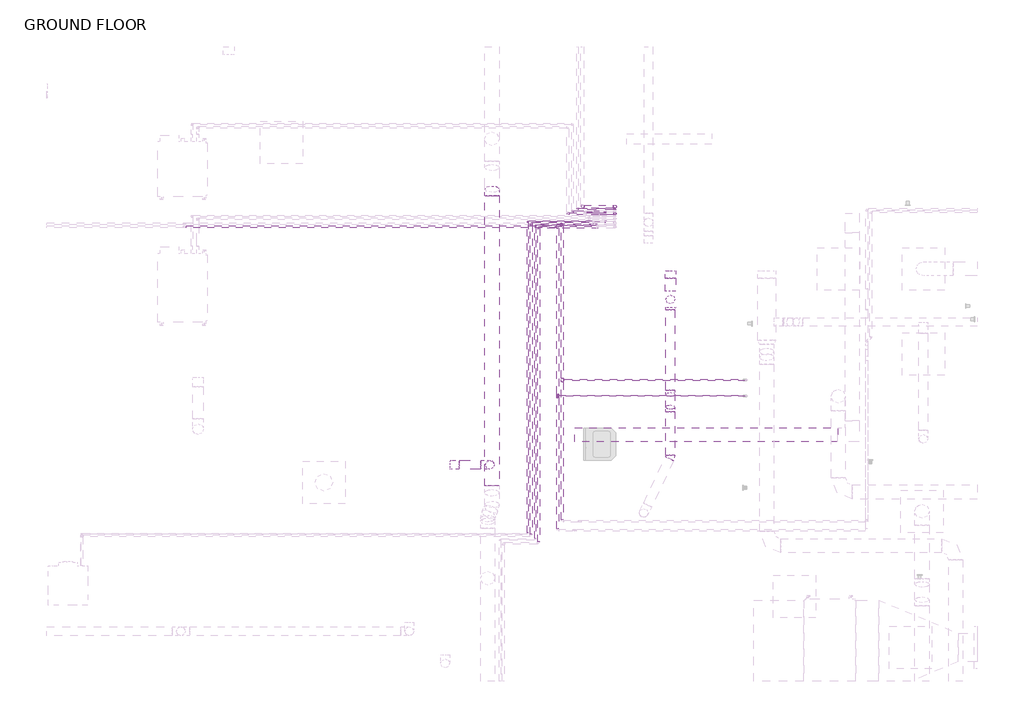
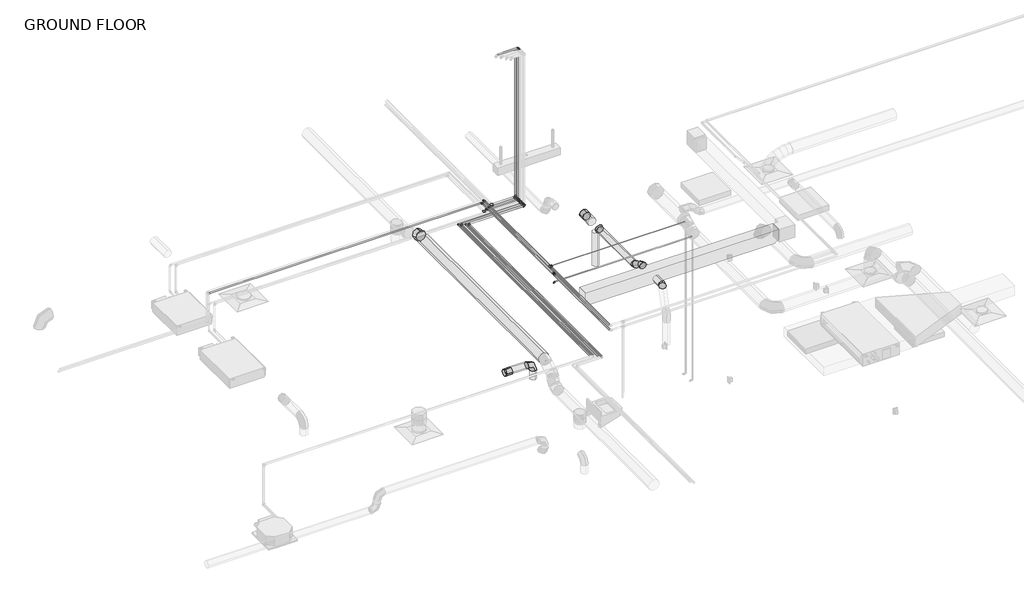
# One storey, part 12 of 20: 26 pipe fittings, 23 pipe segments, 9 duct segments, 8 duct fittings.
"""IFC4 building model written with IfcOpenShell, lengths in millimetres."""

from ifc_helpers import new_model, si_unit, point, frame, frame_2d, origin, place, context, project, spatial, polyline, circle_curve, trimmed, segment, composite_curve, outline, extrude, transform, mapped, element, save
from components import round_elbow_1_d_c80420c1, round_elbow_1_d_e295ca55, round_elbow_1_d_3986cbc1, round_elbow_1_d_d064e566, round_takeoff_standard_272bb003, round_takeoff_standard_0a2b6d05, round_transition_angle_45_degree_fe5c3047, elbow_generic_standard_c06ac706, elbow_generic_standard_738589b0, elbow_generic_standard_a088f956, elbow_generic_standard_371413ad, tee_generic_standard_d345b28c, transition_generic_standard_19d9bb8b

model = new_model("IFC4")

# Units and contexts
model_context = context("Model", 3, world=origin())
ifc_project = project(units=[si_unit("LENGTHUNIT", "METRE", prefix="MILLI")], contexts=[model_context])

# Site, building, storey
site = spatial("IfcSite", under=ifc_project)
building = spatial("IfcBuilding", under=site)
storey = spatial("IfcBuildingStorey", under=building, Name="GROUND FLOOR", Elevation=30480.0)

# Duct fittings
placement = place(None, origin())
round_elbow_1_d_shape = round_elbow_1_d_c80420c1(model_context)
element("IfcDuctFitting", 1, ObjectType="Round Elbow : 1 D", at=placement, inside=storey, context=model_context, shape_type="MappedRepresentation", body=[
    mapped(round_elbow_1_d_shape, transform((-11225.8454607, 4001.4945005, 33121.6), x_axis=(0.0, 0.0, 1.0), y_axis=(-1.0, 0.0, 0.0), z_axis=(0.0, -1.0, 0.0))),
])
round_elbow_1_d_2_shape = round_elbow_1_d_e295ca55(model_context)
element("IfcDuctFitting", 2, ObjectType="Round Elbow : 1 D", at=placement, inside=storey, context=model_context, shape_type="MappedRepresentation", body=[
    mapped(round_elbow_1_d_2_shape, transform((-11194.8892107, 7909.4416846, 33401.0), x_axis=(0.0, 1.0, 0.0), y_axis=(0.0, 0.0, -1.0), z_axis=(-1.0, 0.0, 0.0))),
])
round_elbow_1_d_3_shape = round_elbow_1_d_3986cbc1(model_context)
element("IfcDuctFitting", 3, ObjectType="Round Elbow : 1 D", at=placement, inside=storey, context=model_context, shape_type="MappedRepresentation", body=[
    mapped(round_elbow_1_d_3_shape, transform((-8636.6329607, 5039.7195005, 33629.6), x_axis=(0.0, -1.0, 0.0), y_axis=(0.0, 0.0, 1.0), z_axis=(-1.0, 0.0, 0.0))),
])
element("IfcDuctFitting", 4, ObjectType="Round Elbow : 1 D", at=placement, inside=storey, context=model_context, shape_type="MappedRepresentation", body=[
    mapped(round_elbow_1_d_3_shape, transform((-8636.6329607, 4797.7520027, 33769.3), x_axis=(0.0, -0.8660254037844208, 0.5000000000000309), y_axis=(0.0, -0.5000000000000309, -0.8660254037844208), z_axis=(1.0, 0.0, 0.0))),
])
round_elbow_1_d_4_shape = round_elbow_1_d_d064e566(model_context)
element("IfcDuctFitting", 5, ObjectType="Round Elbow : 1 D", at=placement, inside=storey, context=model_context, shape_type="MappedRepresentation", body=[
    mapped(round_elbow_1_d_4_shape, transform((-8636.6329607, 4111.9520027, 33769.3), x_axis=(0.4302942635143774, 0.9026886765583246, 0.0), y_axis=(-0.9026886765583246, 0.4302942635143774, 0.0), z_axis=(0.0, 0.0, 1.0))),
])
round_takeoff_standard_shape = round_takeoff_standard_272bb003(model_context)
element("IfcDuctFitting", 6, ObjectType="Round Takeoff : Standard", at=placement, inside=storey, context=model_context, shape_type="MappedRepresentation", body=[
    mapped(round_takeoff_standard_shape, transform((-11764.8513201, 4001.4945005, 33121.6), x_axis=(1.0, 0.0, 0.0), y_axis=(0.0, -1.0, 0.0), z_axis=(0.0, 0.0, -1.0))),
])
round_takeoff_standard_2_shape = round_takeoff_standard_0a2b6d05(model_context)
element("IfcDuctFitting", 7, ObjectType="Round Takeoff : Standard", at=placement, inside=storey, context=model_context, shape_type="MappedRepresentation", body=[
    mapped(round_takeoff_standard_2_shape, transform((-8636.6329607, 6781.4293332, 33629.6), x_axis=(0.0, -1.0, 0.0), y_axis=(-1.0, 0.0, 0.0), z_axis=(0.0, 0.0, -1.0))),
])
round_transition_angle_45_degree_shape = round_transition_angle_45_degree_fe5c3047(model_context)
element("IfcDuctFitting", 8, ObjectType="Round Transition - Angle : 45 Degree", at=placement, inside=storey, context=model_context, shape_type="MappedRepresentation", body=[
    mapped(round_transition_angle_45_degree_shape, transform((-8636.6329607, 6258.9195005, 33629.6), x_axis=(0.0, -1.0, 0.0), y_axis=(1.0, 0.0, 0.0), z_axis=(0.0, 0.0, 1.0))),
])

# Duct segments
element("IfcDuctSegment", 9, ObjectType="Mitered Elbows / Taps", at=placement, inside=storey, context=model_context, shape_type="SweptSolid", body=[
    extrude(outline(polyline([(-10008.1055151, 4328.5195005), (-10008.1055151, 4531.7195005), (-6233.0204015, 4531.7195005), (-6233.0204015, 4328.5195005), (-10008.1055151, 4328.5195005)])), frame((0.0, 0.0, 33680.4), z_axis=(0.0, 0.0, 1.0), x_axis=(1.0, 0.0, 0.0)), (0.0, 0.0, 1.0), 254.0),
])
element("IfcDuctSegment", 10, ObjectType="Taps / Short Radius", at=placement, inside=storey, context=model_context, shape_type="SweptSolid", body=[
    extrude(outline(composite_curve([segment(trimmed(circle_curve(frame_2d((33401.0, -11194.8892107)), 101.6), [point((33401.0, -11296.4892107))], [point((33299.4, -11194.8892107))], False, "CARTESIAN"), True, "CONTINUOUS"), segment(trimmed(circle_curve(frame_2d((33401.0, -11194.8892107)), 101.6), [point((33299.4, -11194.8892107))], [point((33401.0, -11093.2892107))], False, "CARTESIAN"), True, "CONTINUOUS"), segment(trimmed(circle_curve(frame_2d((33401.0, -11194.8892107)), 101.6), [point((33401.0, -11093.2892107))], [point((33502.6, -11194.8892107))], False, "CARTESIAN"), True, "CONTINUOUS"), segment(trimmed(circle_curve(frame_2d((33401.0, -11194.8892107)), 101.6), [point((33502.6, -11194.8892107))], [point((33401.0, -11296.4892107))], False, "CARTESIAN"), True, "CONTINUOUS")], self_intersect=False)), frame((0.0, 3698.5539502, 0.0), z_axis=(0.0, 1.0, 0.0), x_axis=(0.0, 0.0, 1.0)), (0.0, 0.0, 1.0), 4162.0088278),
])
element("IfcDuctSegment", 11, ObjectType="Taps / Short Radius", at=placement, inside=storey, context=model_context, shape_type="SweptSolid", body=[
    extrude(outline(composite_curve([segment(trimmed(circle_curve(frame_2d((-11225.8454607, 4001.4945005)), 63.5), [point((-11289.3454607, 4001.4945005))], [point((-11225.8454607, 4064.9945005))], False, "CARTESIAN"), True, "CONTINUOUS"), segment(trimmed(circle_curve(frame_2d((-11225.8454607, 4001.4945005)), 63.5), [point((-11225.8454607, 4064.9945005))], [point((-11162.3454607, 4001.4945005))], False, "CARTESIAN"), True, "CONTINUOUS"), segment(trimmed(circle_curve(frame_2d((-11225.8454607, 4001.4945005)), 63.5), [point((-11162.3454607, 4001.4945005))], [point((-11225.8454607, 3937.9945005))], False, "CARTESIAN"), True, "CONTINUOUS"), segment(trimmed(circle_curve(frame_2d((-11225.8454607, 4001.4945005)), 63.5), [point((-11225.8454607, 3937.9945005))], [point((-11289.3454607, 4001.4945005))], False, "CARTESIAN"), True, "CONTINUOUS")], self_intersect=False)), frame((0.0, 0.0, 32816.8), z_axis=(0.0, 0.0, 1.0), x_axis=(1.0, 0.0, 0.0)), (0.0, 0.0, 1.0), 177.8),
])
element("IfcDuctSegment", 12, ObjectType="Taps / Short Radius", at=placement, inside=storey, context=model_context, shape_type="SweptSolid", body=[
    extrude(outline(composite_curve([segment(trimmed(circle_curve(frame_2d((4001.4945005, 33121.6)), 63.5), [point((4064.9945005, 33121.6))], [point((4001.4945005, 33058.1))], False, "CARTESIAN"), True, "CONTINUOUS"), segment(trimmed(circle_curve(frame_2d((4001.4945005, 33121.6)), 63.5), [point((4001.4945005, 33058.1))], [point((3937.9945005, 33121.6))], False, "CARTESIAN"), True, "CONTINUOUS"), segment(trimmed(circle_curve(frame_2d((4001.4945005, 33121.6)), 63.5), [point((3937.9945005, 33121.6))], [point((4001.4945005, 33185.1))], False, "CARTESIAN"), True, "CONTINUOUS"), segment(trimmed(circle_curve(frame_2d((4001.4945005, 33121.6)), 63.5), [point((4001.4945005, 33185.1))], [point((4064.9945005, 33121.6))], False, "CARTESIAN"), True, "CONTINUOUS")], self_intersect=False)), frame((-11663.2513201, 0.0, 0.0), z_axis=(1.0, 0.0, 0.0), x_axis=(0.0, 1.0, 0.0)), (0.0, 0.0, 1.0), 310.4058594),
])
element("IfcDuctSegment", 13, ObjectType="Taps / Short Radius", at=placement, inside=storey, context=model_context, shape_type="SweptSolid", body=[
    extrude(outline(composite_curve([segment(trimmed(circle_curve(frame_2d((-8636.6329607, 6373.2195005)), 63.5), [point((-8636.6329607, 6309.7195005))], [point((-8700.1329607, 6373.2195005))], False, "CARTESIAN"), True, "CONTINUOUS"), segment(trimmed(circle_curve(frame_2d((-8636.6329607, 6373.2195005)), 63.5), [point((-8700.1329607, 6373.2195005))], [point((-8636.6329607, 6436.7195005))], False, "CARTESIAN"), True, "CONTINUOUS"), segment(trimmed(circle_curve(frame_2d((-8636.6329607, 6373.2195005)), 63.5), [point((-8636.6329607, 6436.7195005))], [point((-8573.1329607, 6373.2195005))], False, "CARTESIAN"), True, "CONTINUOUS"), segment(trimmed(circle_curve(frame_2d((-8636.6329607, 6373.2195005)), 63.5), [point((-8573.1329607, 6373.2195005))], [point((-8636.6329607, 6309.7195005))], False, "CARTESIAN"), True, "CONTINUOUS")], self_intersect=False)), frame((0.0, 0.0, 32816.8), z_axis=(0.0, 0.0, 1.0), x_axis=(1.0, 0.0, 0.0)), (0.0, 0.0, 1.0), 685.8),
])
element("IfcDuctSegment", 14, ObjectType="Taps / Short Radius", at=placement, inside=storey, context=model_context, shape_type="SweptSolid", body=[
    extrude(outline(composite_curve([segment(trimmed(circle_curve(frame_2d((33629.6, -8636.6329607)), 76.2), [point((33629.6, -8712.8329607))], [point((33553.4, -8636.6329607))], False, "CARTESIAN"), True, "CONTINUOUS"), segment(trimmed(circle_curve(frame_2d((33629.6, -8636.6329607)), 76.2), [point((33553.4, -8636.6329607))], [point((33629.6, -8560.4329607))], False, "CARTESIAN"), True, "CONTINUOUS"), segment(trimmed(circle_curve(frame_2d((33629.6, -8636.6329607)), 76.2), [point((33629.6, -8560.4329607))], [point((33705.8, -8636.6329607))], False, "CARTESIAN"), True, "CONTINUOUS"), segment(trimmed(circle_curve(frame_2d((33629.6, -8636.6329607)), 76.2), [point((33705.8, -8636.6329607))], [point((33629.6, -8712.8329607))], False, "CARTESIAN"), True, "CONTINUOUS")], self_intersect=False)), frame((0.0, 6487.5195005, 0.0), z_axis=(0.0, 1.0, 0.0), x_axis=(0.0, 0.0, 1.0)), (0.0, 0.0, 1.0), 192.3098327),
])
element("IfcDuctSegment", 15, ObjectType="Taps / Short Radius", at=placement, inside=storey, context=model_context, shape_type="SweptSolid", body=[
    extrude(outline(composite_curve([segment(trimmed(circle_curve(frame_2d((33629.6, -8636.6329607)), 63.5), [point((33629.6, -8700.1329607))], [point((33566.1, -8636.6329607))], False, "CARTESIAN"), True, "CONTINUOUS"), segment(trimmed(circle_curve(frame_2d((33629.6, -8636.6329607)), 63.5), [point((33566.1, -8636.6329607))], [point((33629.6, -8573.1329607))], False, "CARTESIAN"), True, "CONTINUOUS"), segment(trimmed(circle_curve(frame_2d((33629.6, -8636.6329607)), 63.5), [point((33629.6, -8573.1329607))], [point((33693.1, -8636.6329607))], False, "CARTESIAN"), True, "CONTINUOUS"), segment(trimmed(circle_curve(frame_2d((33629.6, -8636.6329607)), 63.5), [point((33693.1, -8636.6329607))], [point((33629.6, -8700.1329607))], False, "CARTESIAN"), True, "CONTINUOUS")], self_intersect=False)), frame((0.0, 5073.749048, 0.0), z_axis=(0.0, 1.0, 0.0), x_axis=(0.0, 0.0, 1.0)), (0.0, 0.0, 1.0), 1154.5099403),
])
element("IfcDuctSegment", 16, ObjectType="Taps / Short Radius", at=placement, inside=storey, context=model_context, shape_type="SweptSolid", body=[
    extrude(outline(composite_curve([segment(trimmed(circle_curve(frame_2d((0.0, 63.5)), 63.5), [point((-63.5, 63.5))], [point((0.0, 127.0))], False, "CARTESIAN"), True, "CONTINUOUS"), segment(trimmed(circle_curve(frame_2d((0.0, 63.5)), 63.5), [point((0.0, 127.0))], [point((63.5, 63.5))], False, "CARTESIAN"), True, "CONTINUOUS"), segment(trimmed(circle_curve(frame_2d((0.0, 63.5)), 63.5), [point((63.5, 63.5))], [point((0.0, 0.0))], False, "CARTESIAN"), True, "CONTINUOUS"), segment(trimmed(circle_curve(frame_2d((0.0, 63.5)), 63.5), [point((0.0, 0.0))], [point((-63.5, 63.5))], False, "CARTESIAN"), True, "CONTINUOUS")], self_intersect=False)), frame((-8636.6329607, 4978.499048, 33591.6221606), z_axis=(0.0, -0.8660254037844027, 0.5000000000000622), x_axis=(1.0, 0.0, 0.0)), (0.0, 0.0, 1.0), 211.3409051),
])
element("IfcDuctSegment", 17, ObjectType="Taps / Short Radius", at=placement, inside=storey, context=model_context, shape_type="SweptSolid", body=[
    extrude(outline(composite_curve([segment(trimmed(circle_curve(frame_2d((33769.3, -8636.6329607)), 63.5), [point((33769.3, -8700.1329607))], [point((33705.8, -8636.6329607))], False, "CARTESIAN"), True, "CONTINUOUS"), segment(trimmed(circle_curve(frame_2d((33769.3, -8636.6329607)), 63.5), [point((33705.8, -8636.6329607))], [point((33769.3, -8573.1329607))], False, "CARTESIAN"), True, "CONTINUOUS"), segment(trimmed(circle_curve(frame_2d((33769.3, -8636.6329607)), 63.5), [point((33769.3, -8573.1329607))], [point((33832.8, -8636.6329607))], False, "CARTESIAN"), True, "CONTINUOUS"), segment(trimmed(circle_curve(frame_2d((33769.3, -8636.6329607)), 63.5), [point((33832.8, -8636.6329607))], [point((33769.3, -8700.1329607))], False, "CARTESIAN"), True, "CONTINUOUS")], self_intersect=False)), frame((0.0, 4140.6731341, 0.0), z_axis=(0.0, 1.0, 0.0), x_axis=(0.0, 0.0, 1.0)), (0.0, 0.0, 1.0), 623.0493212),
])

# Pipe fittings
elbow_generic_standard_shape = elbow_generic_standard_c06ac706(model_context)
element("IfcPipeFitting", 18, ObjectType="Elbow - Generic : Standard", at=placement, inside=storey, context=model_context, shape_type="MappedRepresentation", body=[
    mapped(elbow_generic_standard_shape, transform((-10108.9967002, 7600.6601211, 33680.4), x_axis=(0.0, -1.0, 0.0), y_axis=(1.0, 0.0, 0.0), z_axis=(0.0, 0.0, 1.0))),
])
element("IfcPipeFitting", 19, ObjectType="Elbow - Generic : Standard", at=placement, inside=storey, context=model_context, shape_type="MappedRepresentation", body=[
    mapped(elbow_generic_standard_shape, transform((-10635.1515455, 7465.7928353, 33680.4), x_axis=(-1.0, 0.0, 0.0), y_axis=(0.0, -1.0, 0.0), z_axis=(0.0, 0.0, 1.0))),
])
element("IfcPipeFitting", 20, ObjectType="Elbow - Generic : Standard", at=placement, inside=storey, context=model_context, shape_type="MappedRepresentation", body=[
    mapped(elbow_generic_standard_shape, transform((-10524.9642107, 7409.7014345, 33680.4), x_axis=(-1.0, 0.0, 0.0), y_axis=(0.0, -1.0, 0.0), z_axis=(0.0, 0.0, 1.0))),
])
element("IfcPipeFitting", 21, ObjectType="Elbow - Generic : Standard", at=placement, inside=storey, context=model_context, shape_type="MappedRepresentation", body=[
    mapped(elbow_generic_standard_shape, transform((-9429.5892107, 7409.7014345, 33680.4), x_axis=(1.0, 0.0, 0.0), y_axis=(0.0, 0.0, 1.0), z_axis=(0.0, -1.0, 0.0))),
])
element("IfcPipeFitting", 22, ObjectType="Elbow - Generic : Standard", at=placement, inside=storey, context=model_context, shape_type="MappedRepresentation", body=[
    mapped(elbow_generic_standard_shape, transform((-9429.5892107, 7465.7928353, 33680.4), x_axis=(1.0, 0.0, 0.0), y_axis=(0.0, 0.0, 1.0), z_axis=(0.0, -1.0, 0.0))),
])
element("IfcPipeFitting", 23, ObjectType="Elbow - Generic : Standard", at=placement, inside=storey, context=model_context, shape_type="MappedRepresentation", body=[
    mapped(elbow_generic_standard_shape, transform((-9429.5892107, 7600.6601211, 33680.4), x_axis=(1.0, 0.0, 0.0), y_axis=(0.0, 0.0, 1.0), z_axis=(0.0, -1.0, 0.0))),
])
element("IfcPipeFitting", 24, ObjectType="Elbow - Generic : Standard", at=placement, inside=storey, context=model_context, shape_type="MappedRepresentation", body=[
    mapped(elbow_generic_standard_shape, transform((-9429.5892107, 7528.3379884, 33680.4), x_axis=(1.0, 0.0, 0.0), y_axis=(0.0, 0.0, 1.0), z_axis=(0.0, -1.0, 0.0))),
])
element("IfcPipeFitting", 25, ObjectType="Elbow - Generic : Standard", at=placement, inside=storey, context=model_context, shape_type="MappedRepresentation", body=[
    mapped(elbow_generic_standard_shape, transform((-9429.5892107, 7600.6601211, 36830.0), x_axis=(0.0, 0.0, 1.0), y_axis=(-1.0, 0.0, 0.0), z_axis=(0.0, -1.0, 0.0))),
])
element("IfcPipeFitting", 26, ObjectType="Elbow - Generic : Standard", at=placement, inside=storey, context=model_context, shape_type="MappedRepresentation", body=[
    mapped(elbow_generic_standard_shape, transform((-10189.2079607, 7460.2718518, 34023.3), x_axis=(0.0, 1.0, 0.0), y_axis=(-1.0, 0.0, 0.0), z_axis=(0.0, 0.0, 1.0))),
])
element("IfcPipeFitting", 27, ObjectType="Elbow - Generic : Standard", at=placement, inside=storey, context=model_context, shape_type="MappedRepresentation", body=[
    mapped(elbow_generic_standard_shape, transform((-10252.7079607, 7415.8218518, 34023.3), x_axis=(0.0, 1.0, 0.0), y_axis=(-1.0, 0.0, 0.0), z_axis=(0.0, 0.0, 1.0))),
])
elbow_generic_standard_2_shape = elbow_generic_standard_738589b0(model_context)
element("IfcPipeFitting", 28, ObjectType="Elbow - Generic : Standard", at=placement, inside=storey, context=model_context, shape_type="MappedRepresentation", body=[
    mapped(elbow_generic_standard_2_shape, transform((-9971.0694154, 7666.6322539, 33680.4), x_axis=(0.0, -1.0, 0.0), y_axis=(1.0, 0.0, 0.0), z_axis=(0.0, 0.0, 1.0))),
])
element("IfcPipeFitting", 29, ObjectType="Elbow - Generic : Standard", at=placement, inside=storey, context=model_context, shape_type="MappedRepresentation", body=[
    mapped(elbow_generic_standard_2_shape, transform((-10040.0330578, 7633.6461875, 33680.4), x_axis=(0.0, -1.0, 0.0), y_axis=(1.0, 0.0, 0.0), z_axis=(0.0, 0.0, 1.0))),
])
element("IfcPipeFitting", 30, ObjectType="Elbow - Generic : Standard", at=placement, inside=storey, context=model_context, shape_type="MappedRepresentation", body=[
    mapped(elbow_generic_standard_2_shape, transform((-9429.5892107, 7633.6461875, 33680.4), x_axis=(1.0, 0.0, 0.0), y_axis=(0.0, 0.0, 1.0), z_axis=(0.0, -1.0, 0.0))),
])
element("IfcPipeFitting", 31, ObjectType="Elbow - Generic : Standard", at=placement, inside=storey, context=model_context, shape_type="MappedRepresentation", body=[
    mapped(elbow_generic_standard_2_shape, transform((-9429.5892107, 7666.6322539, 33680.4), x_axis=(1.0, 0.0, 0.0), y_axis=(0.0, 0.0, 1.0), z_axis=(0.0, -1.0, 0.0))),
])
element("IfcPipeFitting", 32, ObjectType="Elbow - Generic : Standard", at=placement, inside=storey, context=model_context, shape_type="MappedRepresentation", body=[
    mapped(elbow_generic_standard_2_shape, transform((-9429.5892107, 7567.6740548, 33680.4), x_axis=(1.0, 0.0, 0.0), y_axis=(0.0, 0.0, 1.0), z_axis=(0.0, -1.0, 0.0))),
])
elbow_generic_standard_3_shape = elbow_generic_standard_a088f956(model_context)
element("IfcPipeFitting", 33, ObjectType="Elbow - Generic : Standard", at=placement, inside=storey, context=model_context, shape_type="MappedRepresentation", body=[
    mapped(elbow_generic_standard_3_shape, transform((-10682.7765455, 7495.3519221, 33680.4), x_axis=(-1.0, 0.0, 0.0), y_axis=(0.0, -1.0, 0.0), z_axis=(0.0, 0.0, 1.0))),
])
element("IfcPipeFitting", 34, ObjectType="Elbow - Generic : Standard", at=placement, inside=storey, context=model_context, shape_type="MappedRepresentation", body=[
    mapped(elbow_generic_standard_3_shape, transform((-10572.5892107, 7438.5314076, 33680.4), x_axis=(-1.0, 0.0, 0.0), y_axis=(0.0, -1.0, 0.0), z_axis=(0.0, 0.0, 1.0))),
])
element("IfcPipeFitting", 35, ObjectType="Elbow - Generic : Standard", at=placement, inside=storey, context=model_context, shape_type="MappedRepresentation", body=[
    mapped(elbow_generic_standard_3_shape, transform((-9429.5892107, 7438.5314076, 33680.4), x_axis=(1.0, 0.0, 0.0), y_axis=(0.0, 0.0, 1.0), z_axis=(0.0, -1.0, 0.0))),
])
element("IfcPipeFitting", 36, ObjectType="Elbow - Generic : Standard", at=placement, inside=storey, context=model_context, shape_type="MappedRepresentation", body=[
    mapped(elbow_generic_standard_3_shape, transform((-9429.5892107, 7495.3519221, 33680.4), x_axis=(1.0, 0.0, 0.0), y_axis=(0.0, 0.0, 1.0), z_axis=(0.0, -1.0, 0.0))),
])
element("IfcPipeFitting", 37, ObjectType="Elbow - Generic : Standard", at=placement, inside=storey, context=model_context, shape_type="MappedRepresentation", body=[
    mapped(elbow_generic_standard_3_shape, transform((-10252.7079607, 4988.9195005, 33855.358114), x_axis=(0.0, 0.0, 1.0), y_axis=(1.0, 0.0, 0.0), z_axis=(0.0, 1.0, 0.0))),
])
elbow_generic_standard_4_shape = elbow_generic_standard_371413ad(model_context)
element("IfcPipeFitting", 38, ObjectType="Elbow - Generic : Standard", at=placement, inside=storey, context=model_context, shape_type="MappedRepresentation", body=[
    mapped(elbow_generic_standard_4_shape, transform((-9902.105773, 7703.4915784, 33680.4), x_axis=(0.0, -1.0, 0.0), y_axis=(1.0, 0.0, 0.0), z_axis=(0.0, 0.0, 1.0))),
])
element("IfcPipeFitting", 39, ObjectType="Elbow - Generic : Standard", at=placement, inside=storey, context=model_context, shape_type="MappedRepresentation", body=[
    mapped(elbow_generic_standard_4_shape, transform((-9429.5892107, 7703.4915784, 33680.4), x_axis=(1.0, 0.0, 0.0), y_axis=(0.0, 0.0, 1.0), z_axis=(0.0, -1.0, 0.0))),
])
tee_generic_standard_shape = tee_generic_standard_d345b28c(model_context)
element("IfcPipeFitting", 40, ObjectType="Tee - Generic : Standard", at=placement, inside=storey, context=model_context, shape_type="MappedRepresentation", body=[
    mapped(tee_generic_standard_shape, transform((-10189.2079607, 5217.5195005, 34023.3), x_axis=(0.0, -1.0, 0.0), y_axis=(-1.0, 0.0, 0.0), z_axis=(0.0, 0.0, -1.0))),
])
element("IfcPipeFitting", 41, ObjectType="Tee - Generic : Standard", at=placement, inside=storey, context=model_context, shape_type="MappedRepresentation", body=[
    mapped(tee_generic_standard_shape, transform((-10252.7079607, 4988.9195005, 34023.3), x_axis=(0.0, -1.0, 0.0), y_axis=(0.0, 0.0, -1.0), z_axis=(1.0, 0.0, 0.0))),
])
transition_generic_standard_shape = transition_generic_standard_19d9bb8b(model_context)
element("IfcPipeFitting", 42, ObjectType="Transition - Generic : Standard", at=placement, inside=storey, context=model_context, shape_type="MappedRepresentation", body=[
    mapped(transition_generic_standard_shape, transform((-10162.2204607, 5217.5195005, 34023.3), x_axis=(1.0, 0.0, 0.0), y_axis=(0.0, 1.0, 0.0), z_axis=(0.0, 0.0, 1.0))),
])
element("IfcPipeFitting", 43, ObjectType="Transition - Generic : Standard", at=placement, inside=storey, context=model_context, shape_type="MappedRepresentation", body=[
    mapped(transition_generic_standard_shape, transform((-10252.7079607, 4988.9195005, 34050.2875), x_axis=(0.0, 0.0, 1.0), y_axis=(0.0, 1.0, 0.0), z_axis=(-1.0, 0.0, 0.0))),
])

# Pipe segments
element("IfcPipeSegment", 44, ObjectType="Copper Tubing", at=placement, inside=storey, context=model_context, shape_type="SweptSolid", body=[
    extrude(outline(composite_curve([segment(trimmed(circle_curve(frame_2d((7703.4915784, 33680.4)), 20.6375), [point((7682.8540784, 33680.4))], [point((7703.4915784, 33701.0375))], False, "CARTESIAN"), True, "CONTINUOUS"), segment(trimmed(circle_curve(frame_2d((7703.4915784, 33680.4)), 20.6375), [point((7703.4915784, 33701.0375))], [point((7724.1290784, 33680.4))], False, "CARTESIAN"), True, "CONTINUOUS"), segment(trimmed(circle_curve(frame_2d((7703.4915784, 33680.4)), 20.6375), [point((7724.1290784, 33680.4))], [point((7703.4915784, 33659.7625))], False, "CARTESIAN"), True, "CONTINUOUS"), segment(trimmed(circle_curve(frame_2d((7703.4915784, 33680.4)), 20.6375), [point((7703.4915784, 33659.7625))], [point((7682.8540784, 33680.4))], False, "CARTESIAN"), True, "CONTINUOUS")], self_intersect=False)), frame((-9875.118273, 0.0, 0.0), z_axis=(1.0, 0.0, 0.0), x_axis=(0.0, 1.0, 0.0)), (0.0, 0.0, 1.0), 418.5415623),
])
element("IfcPipeSegment", 45, ObjectType="Copper Tubing", at=placement, inside=storey, context=model_context, shape_type="SweptSolid", body=[
    extrude(outline(composite_curve([segment(trimmed(circle_curve(frame_2d((7666.6322539, 33680.4)), 11.1125), [point((7655.5197539, 33680.4))], [point((7666.6322539, 33691.5125))], False, "CARTESIAN"), True, "CONTINUOUS"), segment(trimmed(circle_curve(frame_2d((7666.6322539, 33680.4)), 11.1125), [point((7666.6322539, 33691.5125))], [point((7677.7447539, 33680.4))], False, "CARTESIAN"), True, "CONTINUOUS"), segment(trimmed(circle_curve(frame_2d((7666.6322539, 33680.4)), 11.1125), [point((7677.7447539, 33680.4))], [point((7666.6322539, 33669.2875))], False, "CARTESIAN"), True, "CONTINUOUS"), segment(trimmed(circle_curve(frame_2d((7666.6322539, 33680.4)), 11.1125), [point((7666.6322539, 33669.2875))], [point((7655.5197539, 33680.4))], False, "CARTESIAN"), True, "CONTINUOUS")], self_intersect=False)), frame((-9953.6069154, 0.0, 0.0), z_axis=(1.0, 0.0, 0.0), x_axis=(0.0, 1.0, 0.0)), (0.0, 0.0, 1.0), 506.5552047),
])
element("IfcPipeSegment", 46, ObjectType="Copper Tubing", at=placement, inside=storey, context=model_context, shape_type="SweptSolid", body=[
    extrude(outline(composite_curve([segment(trimmed(circle_curve(frame_2d((7600.6601211, 33680.4)), 14.2875), [point((7586.3726211, 33680.4))], [point((7600.6601211, 33694.6875))], False, "CARTESIAN"), True, "CONTINUOUS"), segment(trimmed(circle_curve(frame_2d((7600.6601211, 33680.4)), 14.2875), [point((7600.6601211, 33694.6875))], [point((7614.9476211, 33680.4))], False, "CARTESIAN"), True, "CONTINUOUS"), segment(trimmed(circle_curve(frame_2d((7600.6601211, 33680.4)), 14.2875), [point((7614.9476211, 33680.4))], [point((7600.6601211, 33666.1125))], False, "CARTESIAN"), True, "CONTINUOUS"), segment(trimmed(circle_curve(frame_2d((7600.6601211, 33680.4)), 14.2875), [point((7600.6601211, 33666.1125))], [point((7586.3726211, 33680.4))], False, "CARTESIAN"), True, "CONTINUOUS")], self_intersect=False)), frame((-10088.3592002, 0.0, 0.0), z_axis=(1.0, 0.0, 0.0), x_axis=(0.0, 1.0, 0.0)), (0.0, 0.0, 1.0), 638.1324895),
])
element("IfcPipeSegment", 47, ObjectType="Copper Tubing", at=placement, inside=storey, context=model_context, shape_type="SweptSolid", body=[
    extrude(outline(composite_curve([segment(trimmed(circle_curve(frame_2d((7633.6461875, 33680.4)), 11.1125), [point((7622.5336875, 33680.4))], [point((7633.6461875, 33691.5125))], False, "CARTESIAN"), True, "CONTINUOUS"), segment(trimmed(circle_curve(frame_2d((7633.6461875, 33680.4)), 11.1125), [point((7633.6461875, 33691.5125))], [point((7644.7586875, 33680.4))], False, "CARTESIAN"), True, "CONTINUOUS"), segment(trimmed(circle_curve(frame_2d((7633.6461875, 33680.4)), 11.1125), [point((7644.7586875, 33680.4))], [point((7633.6461875, 33669.2875))], False, "CARTESIAN"), True, "CONTINUOUS"), segment(trimmed(circle_curve(frame_2d((7633.6461875, 33680.4)), 11.1125), [point((7633.6461875, 33669.2875))], [point((7622.5336875, 33680.4))], False, "CARTESIAN"), True, "CONTINUOUS")], self_intersect=False)), frame((-10022.5705578, 0.0, 0.0), z_axis=(1.0, 0.0, 0.0), x_axis=(0.0, 1.0, 0.0)), (0.0, 0.0, 1.0), 575.5188471),
])
element("IfcPipeSegment", 48, ObjectType="Copper Tubing", at=placement, inside=storey, context=model_context, shape_type="SweptSolid", body=[
    extrude(outline(composite_curve([segment(trimmed(circle_curve(frame_2d((33680.4, -10682.7765455)), 7.9375), [point((33680.4, -10674.8390455))], [point((33688.3375, -10682.7765455))], False, "CARTESIAN"), True, "CONTINUOUS"), segment(trimmed(circle_curve(frame_2d((33680.4, -10682.7765455)), 7.9375), [point((33688.3375, -10682.7765455))], [point((33680.4, -10690.7140455))], False, "CARTESIAN"), True, "CONTINUOUS"), segment(trimmed(circle_curve(frame_2d((33680.4, -10682.7765455)), 7.9375), [point((33680.4, -10690.7140455))], [point((33672.4625, -10682.7765455))], False, "CARTESIAN"), True, "CONTINUOUS"), segment(trimmed(circle_curve(frame_2d((33680.4, -10682.7765455)), 7.9375), [point((33672.4625, -10682.7765455))], [point((33680.4, -10674.8390455))], False, "CARTESIAN"), True, "CONTINUOUS")], self_intersect=False)), frame((0.0, 3028.1140677, 0.0), z_axis=(0.0, 1.0, 0.0), x_axis=(0.0, 0.0, 1.0)), (0.0, 0.0, 1.0), 4452.9503543),
])
element("IfcPipeSegment", 49, ObjectType="Copper Tubing", at=placement, inside=storey, context=model_context, shape_type="SweptSolid", body=[
    extrude(outline(composite_curve([segment(trimmed(circle_curve(frame_2d((7495.3519221, 33680.4)), 7.9375), [point((7487.4144221, 33680.4))], [point((7495.3519221, 33688.3375))], False, "CARTESIAN"), True, "CONTINUOUS"), segment(trimmed(circle_curve(frame_2d((7495.3519221, 33680.4)), 7.9375), [point((7495.3519221, 33688.3375))], [point((7503.2894221, 33680.4))], False, "CARTESIAN"), True, "CONTINUOUS"), segment(trimmed(circle_curve(frame_2d((7495.3519221, 33680.4)), 7.9375), [point((7503.2894221, 33680.4))], [point((7495.3519221, 33672.4625))], False, "CARTESIAN"), True, "CONTINUOUS"), segment(trimmed(circle_curve(frame_2d((7495.3519221, 33680.4)), 7.9375), [point((7495.3519221, 33672.4625))], [point((7487.4144221, 33680.4))], False, "CARTESIAN"), True, "CONTINUOUS")], self_intersect=False)), frame((-10668.4890455, 0.0, 0.0), z_axis=(1.0, 0.0, 0.0), x_axis=(0.0, 1.0, 0.0)), (0.0, 0.0, 1.0), 1224.6123348),
])
element("IfcPipeSegment", 50, ObjectType="Copper Tubing", at=placement, inside=storey, context=model_context, shape_type="SweptSolid", body=[
    extrude(outline(composite_curve([segment(trimmed(circle_curve(frame_2d((33680.4, -10635.1515455)), 14.2875), [point((33680.4, -10620.8640455))], [point((33694.6875, -10635.1515455))], False, "CARTESIAN"), True, "CONTINUOUS"), segment(trimmed(circle_curve(frame_2d((33680.4, -10635.1515455)), 14.2875), [point((33694.6875, -10635.1515455))], [point((33680.4, -10649.4390455))], False, "CARTESIAN"), True, "CONTINUOUS"), segment(trimmed(circle_curve(frame_2d((33680.4, -10635.1515455)), 14.2875), [point((33680.4, -10649.4390455))], [point((33666.1125, -10635.1515455))], False, "CARTESIAN"), True, "CONTINUOUS"), segment(trimmed(circle_curve(frame_2d((33680.4, -10635.1515455)), 14.2875), [point((33666.1125, -10635.1515455))], [point((33680.4, -10620.8640455))], False, "CARTESIAN"), True, "CONTINUOUS")], self_intersect=False)), frame((0.0, 3004.9049809, 0.0), z_axis=(0.0, 1.0, 0.0), x_axis=(0.0, 0.0, 1.0)), (0.0, 0.0, 1.0), 4440.2503543),
])
element("IfcPipeSegment", 51, ObjectType="Copper Tubing", at=placement, inside=storey, context=model_context, shape_type="SweptSolid", body=[
    extrude(outline(composite_curve([segment(trimmed(circle_curve(frame_2d((7465.7928353, 33680.4)), 14.2875), [point((7451.5053353, 33680.4))], [point((7465.7928353, 33694.6875))], False, "CARTESIAN"), True, "CONTINUOUS"), segment(trimmed(circle_curve(frame_2d((7465.7928353, 33680.4)), 14.2875), [point((7465.7928353, 33694.6875))], [point((7480.0803353, 33680.4))], False, "CARTESIAN"), True, "CONTINUOUS"), segment(trimmed(circle_curve(frame_2d((7465.7928353, 33680.4)), 14.2875), [point((7480.0803353, 33680.4))], [point((7465.7928353, 33666.1125))], False, "CARTESIAN"), True, "CONTINUOUS"), segment(trimmed(circle_curve(frame_2d((7465.7928353, 33680.4)), 14.2875), [point((7465.7928353, 33666.1125))], [point((7451.5053353, 33680.4))], False, "CARTESIAN"), True, "CONTINUOUS")], self_intersect=False)), frame((-10614.5140455, 0.0, 0.0), z_axis=(1.0, 0.0, 0.0), x_axis=(0.0, 1.0, 0.0)), (0.0, 0.0, 1.0), 1164.2873348),
])
element("IfcPipeSegment", 52, ObjectType="Copper Tubing", at=placement, inside=storey, context=model_context, shape_type="SweptSolid", body=[
    extrude(outline(composite_curve([segment(trimmed(circle_curve(frame_2d((33680.4, -10572.5892107)), 7.9375), [point((33680.4, -10564.6517107))], [point((33688.3375, -10572.5892107))], False, "CARTESIAN"), True, "CONTINUOUS"), segment(trimmed(circle_curve(frame_2d((33680.4, -10572.5892107)), 7.9375), [point((33688.3375, -10572.5892107))], [point((33680.4, -10580.5267107))], False, "CARTESIAN"), True, "CONTINUOUS"), segment(trimmed(circle_curve(frame_2d((33680.4, -10572.5892107)), 7.9375), [point((33680.4, -10580.5267107))], [point((33672.4625, -10572.5892107))], False, "CARTESIAN"), True, "CONTINUOUS"), segment(trimmed(circle_curve(frame_2d((33680.4, -10572.5892107)), 7.9375), [point((33672.4625, -10572.5892107))], [point((33680.4, -10564.6517107))], False, "CARTESIAN"), True, "CONTINUOUS")], self_intersect=False)), frame((0.0, 2944.3718297, 0.0), z_axis=(0.0, 1.0, 0.0), x_axis=(0.0, 0.0, 1.0)), (0.0, 0.0, 1.0), 4479.8720779),
])
element("IfcPipeSegment", 53, ObjectType="Copper Tubing", at=placement, inside=storey, context=model_context, shape_type="SweptSolid", body=[
    extrude(outline(composite_curve([segment(trimmed(circle_curve(frame_2d((7438.5314076, 33680.4)), 7.9375), [point((7430.5939076, 33680.4))], [point((7438.5314076, 33688.3375))], False, "CARTESIAN"), True, "CONTINUOUS"), segment(trimmed(circle_curve(frame_2d((7438.5314076, 33680.4)), 7.9375), [point((7438.5314076, 33688.3375))], [point((7446.4689076, 33680.4))], False, "CARTESIAN"), True, "CONTINUOUS"), segment(trimmed(circle_curve(frame_2d((7438.5314076, 33680.4)), 7.9375), [point((7446.4689076, 33680.4))], [point((7438.5314076, 33672.4625))], False, "CARTESIAN"), True, "CONTINUOUS"), segment(trimmed(circle_curve(frame_2d((7438.5314076, 33680.4)), 7.9375), [point((7438.5314076, 33672.4625))], [point((7430.5939076, 33680.4))], False, "CARTESIAN"), True, "CONTINUOUS")], self_intersect=False)), frame((-10558.3017107, 0.0, 0.0), z_axis=(1.0, 0.0, 0.0), x_axis=(0.0, 1.0, 0.0)), (0.0, 0.0, 1.0), 1114.425),
])
element("IfcPipeSegment", 54, ObjectType="Copper Tubing", at=placement, inside=storey, context=model_context, shape_type="SweptSolid", body=[
    extrude(outline(composite_curve([segment(trimmed(circle_curve(frame_2d((33680.4, -10524.9642107)), 14.2875), [point((33680.4, -10510.6767107))], [point((33694.6875, -10524.9642107))], False, "CARTESIAN"), True, "CONTINUOUS"), segment(trimmed(circle_curve(frame_2d((33680.4, -10524.9642107)), 14.2875), [point((33694.6875, -10524.9642107))], [point((33680.4, -10539.2517107))], False, "CARTESIAN"), True, "CONTINUOUS"), segment(trimmed(circle_curve(frame_2d((33680.4, -10524.9642107)), 14.2875), [point((33680.4, -10539.2517107))], [point((33666.1125, -10524.9642107))], False, "CARTESIAN"), True, "CONTINUOUS"), segment(trimmed(circle_curve(frame_2d((33680.4, -10524.9642107)), 14.2875), [point((33666.1125, -10524.9642107))], [point((33680.4, -10510.6767107))], False, "CARTESIAN"), True, "CONTINUOUS")], self_intersect=False)), frame((0.0, 2896.4918566, 0.0), z_axis=(0.0, 1.0, 0.0), x_axis=(0.0, 0.0, 1.0)), (0.0, 0.0, 1.0), 4492.5720779),
])
element("IfcPipeSegment", 55, ObjectType="Copper Tubing", at=placement, inside=storey, context=model_context, shape_type="SweptSolid", body=[
    extrude(outline(composite_curve([segment(trimmed(circle_curve(frame_2d((7409.7014345, 33680.4)), 14.2875), [point((7395.4139345, 33680.4))], [point((7409.7014345, 33694.6875))], False, "CARTESIAN"), True, "CONTINUOUS"), segment(trimmed(circle_curve(frame_2d((7409.7014345, 33680.4)), 14.2875), [point((7409.7014345, 33694.6875))], [point((7423.9889345, 33680.4))], False, "CARTESIAN"), True, "CONTINUOUS"), segment(trimmed(circle_curve(frame_2d((7409.7014345, 33680.4)), 14.2875), [point((7423.9889345, 33680.4))], [point((7409.7014345, 33666.1125))], False, "CARTESIAN"), True, "CONTINUOUS"), segment(trimmed(circle_curve(frame_2d((7409.7014345, 33680.4)), 14.2875), [point((7409.7014345, 33666.1125))], [point((7395.4139345, 33680.4))], False, "CARTESIAN"), True, "CONTINUOUS")], self_intersect=False)), frame((-10504.3267107, 0.0, 0.0), z_axis=(1.0, 0.0, 0.0), x_axis=(0.0, 1.0, 0.0)), (0.0, 0.0, 1.0), 1054.1),
])
element("IfcPipeSegment", 56, ObjectType="Copper Tubing", at=placement, inside=storey, context=model_context, shape_type="SweptSolid", body=[
    extrude(outline(composite_curve([segment(trimmed(circle_curve(frame_2d((-9429.5892107, 7703.4915784)), 20.6375), [point((-9450.2267107, 7703.4915784))], [point((-9429.5892107, 7724.1290784))], False, "CARTESIAN"), True, "CONTINUOUS"), segment(trimmed(circle_curve(frame_2d((-9429.5892107, 7703.4915784)), 20.6375), [point((-9429.5892107, 7724.1290784))], [point((-9408.9517107, 7703.4915784))], False, "CARTESIAN"), True, "CONTINUOUS"), segment(trimmed(circle_curve(frame_2d((-9429.5892107, 7703.4915784)), 20.6375), [point((-9408.9517107, 7703.4915784))], [point((-9429.5892107, 7682.8540784))], False, "CARTESIAN"), True, "CONTINUOUS"), segment(trimmed(circle_curve(frame_2d((-9429.5892107, 7703.4915784)), 20.6375), [point((-9429.5892107, 7682.8540784))], [point((-9450.2267107, 7703.4915784))], False, "CARTESIAN"), True, "CONTINUOUS")], self_intersect=False)), frame((0.0, 0.0, 33707.3875), z_axis=(0.0, 0.0, 1.0), x_axis=(1.0, 0.0, 0.0)), (0.0, 0.0, 1.0), 3021.0125),
])
element("IfcPipeSegment", 57, ObjectType="Copper Tubing", at=placement, inside=storey, context=model_context, shape_type="SweptSolid", body=[
    extrude(outline(composite_curve([segment(trimmed(circle_curve(frame_2d((-9429.5892107, 7666.6322539)), 11.1125), [point((-9440.7017107, 7666.6322539))], [point((-9429.5892107, 7677.7447539))], False, "CARTESIAN"), True, "CONTINUOUS"), segment(trimmed(circle_curve(frame_2d((-9429.5892107, 7666.6322539)), 11.1125), [point((-9429.5892107, 7677.7447539))], [point((-9418.4767107, 7666.6322539))], False, "CARTESIAN"), True, "CONTINUOUS"), segment(trimmed(circle_curve(frame_2d((-9429.5892107, 7666.6322539)), 11.1125), [point((-9418.4767107, 7666.6322539))], [point((-9429.5892107, 7655.5197539))], False, "CARTESIAN"), True, "CONTINUOUS"), segment(trimmed(circle_curve(frame_2d((-9429.5892107, 7666.6322539)), 11.1125), [point((-9429.5892107, 7655.5197539))], [point((-9440.7017107, 7666.6322539))], False, "CARTESIAN"), True, "CONTINUOUS")], self_intersect=False)), frame((0.0, 0.0, 33697.8625), z_axis=(0.0, 0.0, 1.0), x_axis=(1.0, 0.0, 0.0)), (0.0, 0.0, 1.0), 3030.5375),
])
element("IfcPipeSegment", 58, ObjectType="Copper Tubing", at=placement, inside=storey, context=model_context, shape_type="SweptSolid", body=[
    extrude(outline(composite_curve([segment(trimmed(circle_curve(frame_2d((-9429.5892107, 7600.6601211)), 14.2875), [point((-9443.8767107, 7600.6601211))], [point((-9429.5892107, 7614.9476211))], False, "CARTESIAN"), True, "CONTINUOUS"), segment(trimmed(circle_curve(frame_2d((-9429.5892107, 7600.6601211)), 14.2875), [point((-9429.5892107, 7614.9476211))], [point((-9415.3017107, 7600.6601211))], False, "CARTESIAN"), True, "CONTINUOUS"), segment(trimmed(circle_curve(frame_2d((-9429.5892107, 7600.6601211)), 14.2875), [point((-9415.3017107, 7600.6601211))], [point((-9429.5892107, 7586.3726211))], False, "CARTESIAN"), True, "CONTINUOUS"), segment(trimmed(circle_curve(frame_2d((-9429.5892107, 7600.6601211)), 14.2875), [point((-9429.5892107, 7586.3726211))], [point((-9443.8767107, 7600.6601211))], False, "CARTESIAN"), True, "CONTINUOUS")], self_intersect=False)), frame((0.0, 0.0, 33701.0375), z_axis=(0.0, 0.0, 1.0), x_axis=(1.0, 0.0, 0.0)), (0.0, 0.0, 1.0), 3108.325),
])
element("IfcPipeSegment", 59, ObjectType="Copper Tubing", at=placement, inside=storey, context=model_context, shape_type="SweptSolid", body=[
    extrude(outline(composite_curve([segment(trimmed(circle_curve(frame_2d((7600.6601211, 36830.0)), 14.2875), [point((7614.9476211, 36830.0))], [point((7600.6601211, 36815.7125))], False, "CARTESIAN"), True, "CONTINUOUS"), segment(trimmed(circle_curve(frame_2d((7600.6601211, 36830.0)), 14.2875), [point((7600.6601211, 36815.7125))], [point((7586.3726211, 36830.0))], False, "CARTESIAN"), True, "CONTINUOUS"), segment(trimmed(circle_curve(frame_2d((7600.6601211, 36830.0)), 14.2875), [point((7586.3726211, 36830.0))], [point((7600.6601211, 36844.2875))], False, "CARTESIAN"), True, "CONTINUOUS"), segment(trimmed(circle_curve(frame_2d((7600.6601211, 36830.0)), 14.2875), [point((7600.6601211, 36844.2875))], [point((7614.9476211, 36830.0))], False, "CARTESIAN"), True, "CONTINUOUS")], self_intersect=False)), frame((-9845.6978043, 0.0, 0.0), z_axis=(1.0, 0.0, 0.0), x_axis=(0.0, 1.0, 0.0)), (0.0, 0.0, 1.0), 395.4710936),
])
element("IfcPipeSegment", 60, ObjectType="Copper Tubing", at=placement, inside=storey, context=model_context, shape_type="SweptSolid", body=[
    extrude(outline(composite_curve([segment(trimmed(circle_curve(frame_2d((34023.3, -10189.2079607)), 14.2875), [point((34023.3, -10174.9204607))], [point((34037.5875, -10189.2079607))], False, "CARTESIAN"), True, "CONTINUOUS"), segment(trimmed(circle_curve(frame_2d((34023.3, -10189.2079607)), 14.2875), [point((34037.5875, -10189.2079607))], [point((34023.3, -10203.4954607))], False, "CARTESIAN"), True, "CONTINUOUS"), segment(trimmed(circle_curve(frame_2d((34023.3, -10189.2079607)), 14.2875), [point((34023.3, -10203.4954607))], [point((34009.0125, -10189.2079607))], False, "CARTESIAN"), True, "CONTINUOUS"), segment(trimmed(circle_curve(frame_2d((34023.3, -10189.2079607)), 14.2875), [point((34009.0125, -10189.2079607))], [point((34023.3, -10174.9204607))], False, "CARTESIAN"), True, "CONTINUOUS")], self_intersect=False)), frame((0.0, 5244.5070005, 0.0), z_axis=(0.0, 1.0, 0.0), x_axis=(0.0, 0.0, 1.0)), (0.0, 0.0, 1.0), 2195.1273513),
])
element("IfcPipeSegment", 61, ObjectType="Copper Tubing", at=placement, inside=storey, context=model_context, shape_type="SweptSolid", body=[
    extrude(outline(composite_curve([segment(trimmed(circle_curve(frame_2d((34023.3, -10252.7079607)), 14.2875), [point((34023.3, -10238.4204607))], [point((34037.5875, -10252.7079607))], False, "CARTESIAN"), True, "CONTINUOUS"), segment(trimmed(circle_curve(frame_2d((34023.3, -10252.7079607)), 14.2875), [point((34037.5875, -10252.7079607))], [point((34023.3, -10266.9954607))], False, "CARTESIAN"), True, "CONTINUOUS"), segment(trimmed(circle_curve(frame_2d((34023.3, -10252.7079607)), 14.2875), [point((34023.3, -10266.9954607))], [point((34009.0125, -10252.7079607))], False, "CARTESIAN"), True, "CONTINUOUS"), segment(trimmed(circle_curve(frame_2d((34023.3, -10252.7079607)), 14.2875), [point((34009.0125, -10252.7079607))], [point((34023.3, -10238.4204607))], False, "CARTESIAN"), True, "CONTINUOUS")], self_intersect=False)), frame((0.0, 5015.9070005, 0.0), z_axis=(0.0, 1.0, 0.0), x_axis=(0.0, 0.0, 1.0)), (0.0, 0.0, 1.0), 2379.2773513),
])
element("IfcPipeSegment", 62, ObjectType="Copper Tubing", at=placement, inside=storey, context=model_context, shape_type="SweptSolid", body=[
    extrude(outline(composite_curve([segment(trimmed(circle_curve(frame_2d((5217.5195005, 34023.3)), 7.9375), [point((5209.5820005, 34023.3))], [point((5217.5195005, 34031.2375))], False, "CARTESIAN"), True, "CONTINUOUS"), segment(trimmed(circle_curve(frame_2d((5217.5195005, 34023.3)), 7.9375), [point((5217.5195005, 34031.2375))], [point((5225.4570005, 34023.3))], False, "CARTESIAN"), True, "CONTINUOUS"), segment(trimmed(circle_curve(frame_2d((5217.5195005, 34023.3)), 7.9375), [point((5225.4570005, 34023.3))], [point((5217.5195005, 34015.3625))], False, "CARTESIAN"), True, "CONTINUOUS"), segment(trimmed(circle_curve(frame_2d((5217.5195005, 34023.3)), 7.9375), [point((5217.5195005, 34015.3625))], [point((5209.5820005, 34023.3))], False, "CARTESIAN"), True, "CONTINUOUS")], self_intersect=False)), frame((-10155.0767107, 0.0, 0.0), z_axis=(1.0, 0.0, 0.0), x_axis=(0.0, 1.0, 0.0)), (0.0, 0.0, 1.0), 2597.94375),
])
element("IfcPipeSegment", 63, ObjectType="Copper Tubing", at=placement, inside=storey, context=model_context, shape_type="SweptSolid", body=[
    extrude(outline(composite_curve([segment(trimmed(circle_curve(frame_2d((34023.3, -10189.2079607)), 14.2875), [point((34023.3, -10174.9204607))], [point((34037.5875, -10189.2079607))], False, "CARTESIAN"), True, "CONTINUOUS"), segment(trimmed(circle_curve(frame_2d((34023.3, -10189.2079607)), 14.2875), [point((34037.5875, -10189.2079607))], [point((34023.3, -10203.4954607))], False, "CARTESIAN"), True, "CONTINUOUS"), segment(trimmed(circle_curve(frame_2d((34023.3, -10189.2079607)), 14.2875), [point((34023.3, -10203.4954607))], [point((34009.0125, -10189.2079607))], False, "CARTESIAN"), True, "CONTINUOUS"), segment(trimmed(circle_curve(frame_2d((34023.3, -10189.2079607)), 14.2875), [point((34009.0125, -10189.2079607))], [point((34023.3, -10174.9204607))], False, "CARTESIAN"), True, "CONTINUOUS")], self_intersect=False)), frame((0.0, 3213.7093518, 0.0), z_axis=(0.0, 1.0, 0.0), x_axis=(0.0, 0.0, 1.0)), (0.0, 0.0, 1.0), 1976.8226487),
])
element("IfcPipeSegment", 64, ObjectType="Copper Tubing", at=placement, inside=storey, context=model_context, shape_type="SweptSolid", body=[
    extrude(outline(composite_curve([segment(trimmed(circle_curve(frame_2d((4988.9195005, 33855.358114)), 7.9375), [point((4980.9820005, 33855.358114))], [point((4988.9195005, 33863.295614))], False, "CARTESIAN"), True, "CONTINUOUS"), segment(trimmed(circle_curve(frame_2d((4988.9195005, 33855.358114)), 7.9375), [point((4988.9195005, 33863.295614))], [point((4996.8570005, 33855.358114))], False, "CARTESIAN"), True, "CONTINUOUS"), segment(trimmed(circle_curve(frame_2d((4988.9195005, 33855.358114)), 7.9375), [point((4996.8570005, 33855.358114))], [point((4988.9195005, 33847.420614))], False, "CARTESIAN"), True, "CONTINUOUS"), segment(trimmed(circle_curve(frame_2d((4988.9195005, 33855.358114)), 7.9375), [point((4988.9195005, 33847.420614))], [point((4980.9820005, 33855.358114))], False, "CARTESIAN"), True, "CONTINUOUS")], self_intersect=False)), frame((-10238.4204607, 0.0, 0.0), z_axis=(1.0, 0.0, 0.0), x_axis=(0.0, 1.0, 0.0)), (0.0, 0.0, 1.0), 2681.2875),
])
element("IfcPipeSegment", 65, ObjectType="Copper Tubing", at=placement, inside=storey, context=model_context, shape_type="SweptSolid", body=[
    extrude(outline(composite_curve([segment(trimmed(circle_curve(frame_2d((34023.3, -10252.7079607)), 14.2875), [point((34023.3, -10238.4204607))], [point((34037.5875, -10252.7079607))], False, "CARTESIAN"), True, "CONTINUOUS"), segment(trimmed(circle_curve(frame_2d((34023.3, -10252.7079607)), 14.2875), [point((34037.5875, -10252.7079607))], [point((34023.3, -10266.9954607))], False, "CARTESIAN"), True, "CONTINUOUS"), segment(trimmed(circle_curve(frame_2d((34023.3, -10252.7079607)), 14.2875), [point((34023.3, -10266.9954607))], [point((34009.0125, -10252.7079607))], False, "CARTESIAN"), True, "CONTINUOUS"), segment(trimmed(circle_curve(frame_2d((34023.3, -10252.7079607)), 14.2875), [point((34009.0125, -10252.7079607))], [point((34023.3, -10238.4204607))], False, "CARTESIAN"), True, "CONTINUOUS")], self_intersect=False)), frame((0.0, 3086.7093518, 0.0), z_axis=(0.0, 1.0, 0.0), x_axis=(0.0, 0.0, 1.0)), (0.0, 0.0, 1.0), 1875.2226487),
])
element("IfcPipeSegment", 66, ObjectType="Copper Tubing", at=placement, inside=storey, context=model_context, shape_type="SweptSolid", body=[
    extrude(outline(composite_curve([segment(trimmed(circle_curve(frame_2d((7415.8218518, 34023.3)), 14.2875), [point((7430.1093518, 34023.3))], [point((7415.8218518, 34009.0125))], False, "CARTESIAN"), True, "CONTINUOUS"), segment(trimmed(circle_curve(frame_2d((7415.8218518, 34023.3)), 14.2875), [point((7415.8218518, 34009.0125))], [point((7401.5343518, 34023.3))], False, "CARTESIAN"), True, "CONTINUOUS"), segment(trimmed(circle_curve(frame_2d((7415.8218518, 34023.3)), 14.2875), [point((7401.5343518, 34023.3))], [point((7415.8218518, 34037.5875))], False, "CARTESIAN"), True, "CONTINUOUS"), segment(trimmed(circle_curve(frame_2d((7415.8218518, 34023.3)), 14.2875), [point((7415.8218518, 34037.5875))], [point((7430.1093518, 34023.3))], False, "CARTESIAN"), True, "CONTINUOUS")], self_intersect=False)), frame((-15582.7392107, 0.0, 0.0), z_axis=(1.0, 0.0, 0.0), x_axis=(0.0, 1.0, 0.0)), (0.0, 0.0, 1.0), 5309.39375),
])

save(model, "model.ifc")
